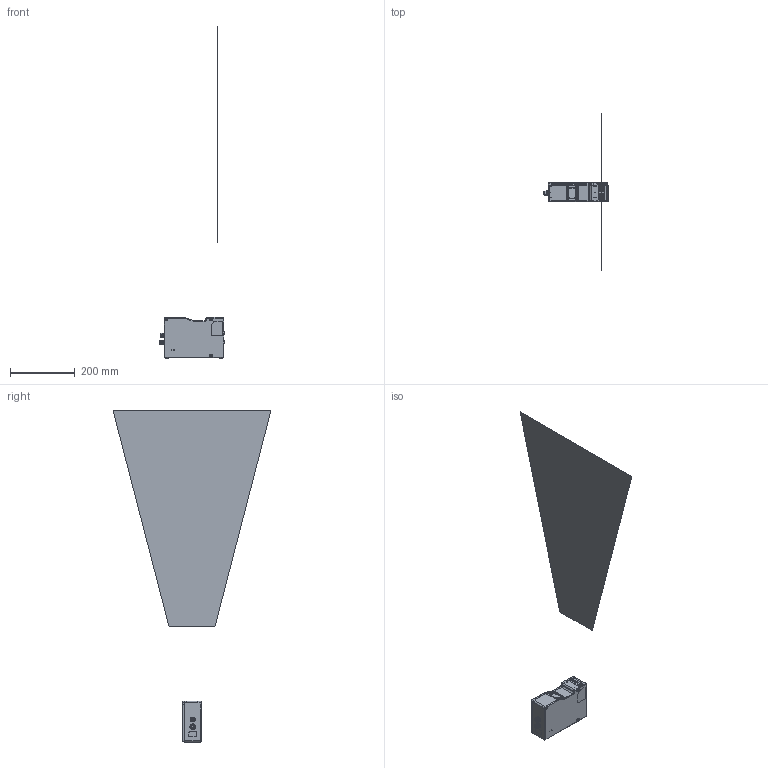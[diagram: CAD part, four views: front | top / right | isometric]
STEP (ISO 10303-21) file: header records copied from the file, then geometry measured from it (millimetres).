
FILE_DESCRIPTION((''),'2;1');
FILE_NAME('MV-DP2470-03P','2025-10-21T14:06:23',('lijiahong14'),(''),'CREO PARAMETRIC BY PTC INC, 2020044','CREO PARAMETRIC BY PTC INC, 2020044','');
FILE_SCHEMA(('CONFIG_CONTROL_DESIGN'));
Length unit declared in the file: millimetre
Products named in the file (1): MV-DP2470-03P
Bounding box: 198.3 x 488 x 1025.5 mm (x, y, z)
Surface area: 295486.7 mm2 (no closed solid volume)
Topology: 0 solids, 26 shells, 399 faces, 1773 edges, 1360 vertices
Faces by surface type: plane 131, cylinder 107, cone 98, bspline 35, torus 28
Entity records: 27558 total; most frequent: CARTESIAN_POINT 13974, DIRECTION 2683, ORIENTED_EDGE 2502, EDGE_CURVE 1773, VERTEX_POINT 1360, AXIS2_PLACEMENT_3D 961, VECTOR 761, LINE 761
